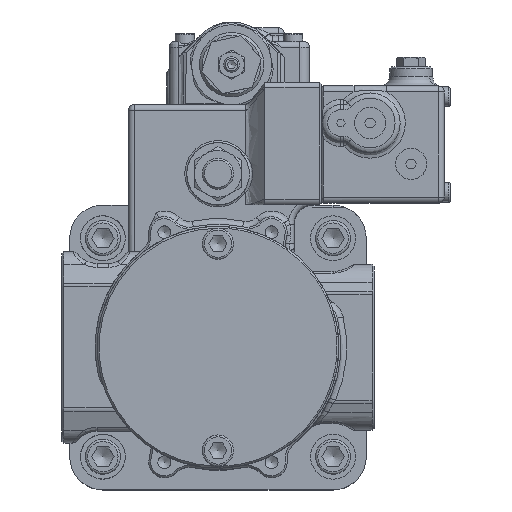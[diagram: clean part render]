
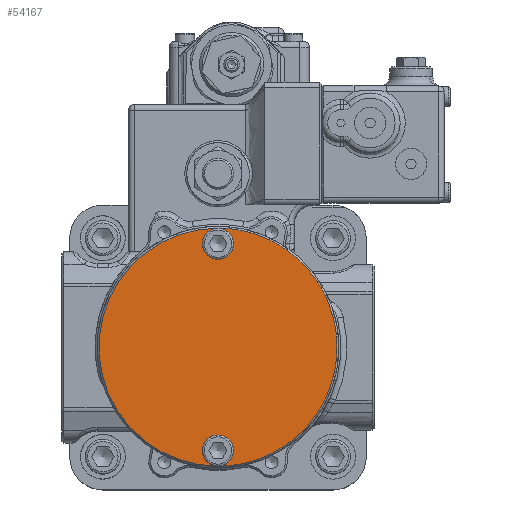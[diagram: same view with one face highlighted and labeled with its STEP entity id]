
A CAD part, top view. The second image highlights one B-rep face of the part: STEP entity #54167.
In plain terms, the highlighted planar face has unit normal (0, 0, 1).
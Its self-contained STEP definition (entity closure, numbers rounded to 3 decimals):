
#160=CARTESIAN_POINT('',(0.,61.,258.7));
#161=VERTEX_POINT('',#160);
#162=CARTESIAN_POINT('',(0.,53.,258.7));
#163=DIRECTION('',(0.0,0.0,-1.0));
#164=DIRECTION('',(0.0,1.0,0.0));
#165=AXIS2_PLACEMENT_3D('',#162,#163,#164);
#166=CIRCLE('',#165,8.);
#167=EDGE_CURVE('',#161,#161,#166,.T.);
#54058=CARTESIAN_POINT('',(0.,-61.,258.7));
#54059=VERTEX_POINT('',#54058);
#54060=CARTESIAN_POINT('',(0.,0.,258.7));
#54061=DIRECTION('',(0.0,0.0,-1.0));
#54062=DIRECTION('',(-1.0,0.0,0.0));
#54063=AXIS2_PLACEMENT_3D('',#54060,#54061,#54062);
#54064=CIRCLE('',#54063,61.0);
#54065=EDGE_CURVE('',#161,#54059,#54064,.T.);
#54067=CARTESIAN_POINT('',(0.,0.,258.7));
#54068=DIRECTION('',(0.0,0.0,-1.0));
#54069=DIRECTION('',(-1.0,0.0,0.0));
#54070=AXIS2_PLACEMENT_3D('',#54067,#54068,#54069);
#54071=CIRCLE('',#54070,61.0);
#54072=EDGE_CURVE('',#54059,#161,#54071,.T.);
#54150=CARTESIAN_POINT('',(0.,0.,258.7));
#54151=DIRECTION('',(0.0,0.0,-1.0));
#54152=DIRECTION('',(-1.0,0.0,0.0));
#54153=AXIS2_PLACEMENT_3D('',#54150,#54151,#54152);
#54154=PLANE('',#54153);
#54155=ORIENTED_EDGE('',*,*,#54065,.F.);
#54156=ORIENTED_EDGE('',*,*,#167,.T.);
#54157=ORIENTED_EDGE('',*,*,#54072,.F.);
#54158=CARTESIAN_POINT('',(0.,-53.,258.7));
#54159=DIRECTION('',(0.0,0.0,-1.0));
#54160=DIRECTION('',(0.0,1.0,0.0));
#54161=AXIS2_PLACEMENT_3D('',#54158,#54159,#54160);
#54162=CIRCLE('',#54161,8.);
#54163=EDGE_CURVE('',#54059,#54059,#54162,.T.);
#54164=ORIENTED_EDGE('',*,*,#54163,.T.);
#54165=EDGE_LOOP('',(#54155,#54156,#54157,#54164));
#54166=FACE_OUTER_BOUND('',#54165,.T.);
#54167=ADVANCED_FACE('',(#54166),#54154,.F.);
